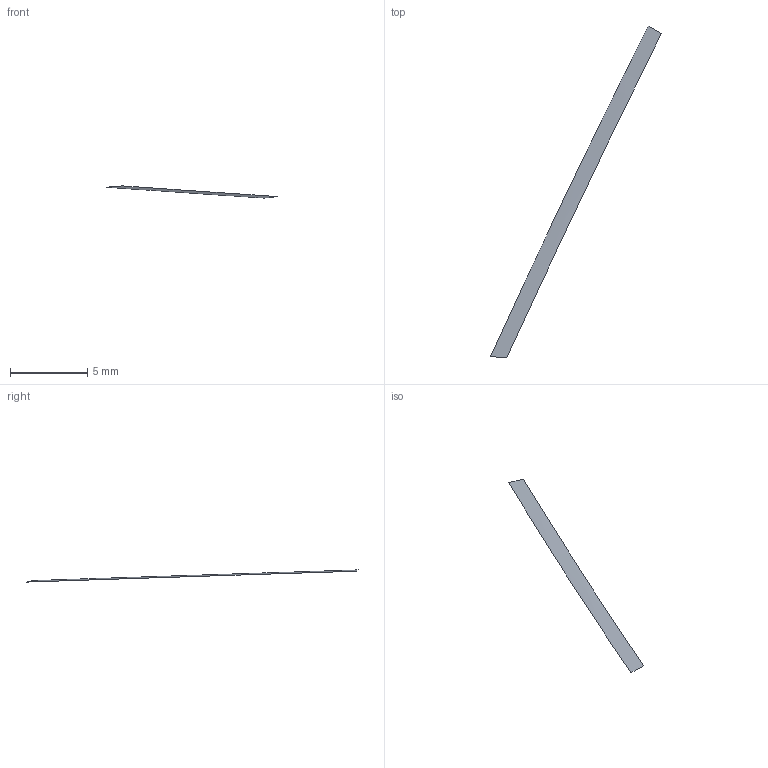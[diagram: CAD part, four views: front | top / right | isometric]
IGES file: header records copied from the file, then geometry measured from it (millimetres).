
Start section: START RECORD GO HERE
Global section: file name: t7.igs; native system: IBM CATIA IGES - CATIA SOLUTIONS V4RELEASE 1.9 REFRESH 01; preprocessor: CATIA SOLUTIONS V4RELEASE 1.9 REFRESH 01; author: cky; date: 990510.133752; units: millimetre
Bounding box: 11.04 x 21.43 x 0.79 mm (x, y, z)
Surface area: 23.6 mm2 (no closed solid volume)
Topology: 0 solids, 0 shells, 1 faces, 14 edges, 14 vertices
Faces by surface type: bspline 1
